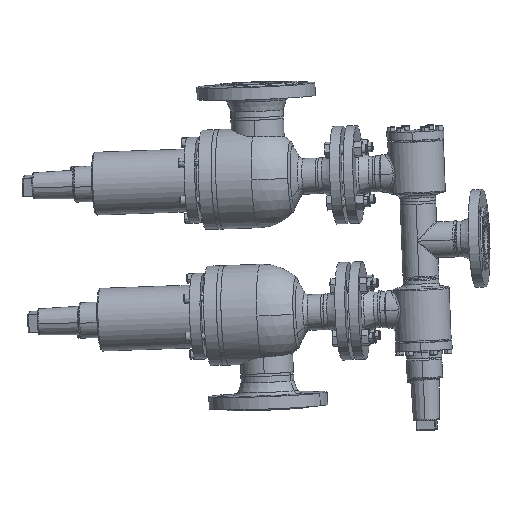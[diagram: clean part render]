
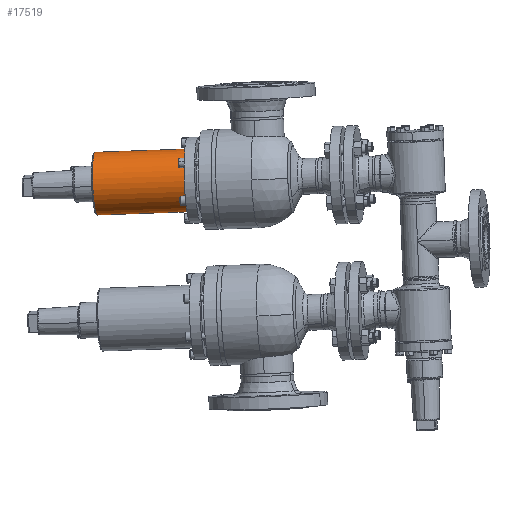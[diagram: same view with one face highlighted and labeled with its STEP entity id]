
A CAD part, top view. The second image highlights one B-rep face of the part: STEP entity #17519.
In plain terms, the highlighted cylindrical face has radius 53 mm (diameter 106 mm), a partial arc.
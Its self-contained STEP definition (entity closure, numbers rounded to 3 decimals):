
#16792 = EDGE_LOOP ( 'NONE', ( #15264, #13717, #12182, #10640 ) ) ;
#17519 = ADVANCED_FACE ( 'NONE', ( #14251 ), #14252, .T. ) ;
#33957 = EDGE_CURVE ( 'NONE', #35828, #38191, #37981, .T. ) ;
#1207 = EDGE_CURVE ( 'NONE', #36299, #3810, #43506, .T. ) ;
#18648 = EDGE_CURVE ( 'NONE', #35828, #36299, #15517, .T. ) ;
#35828 = VERTEX_POINT ( 'NONE', #41343 ) ;
#36299 = VERTEX_POINT ( 'NONE', #42281 ) ;
#3810 = VERTEX_POINT ( 'NONE', #47183 ) ;
#37981 = LINE ( 'NONE', #37982, #37983 ) ;
#37982 = CARTESIAN_POINT ( 'NONE',  ( 0., -43.922, 53. ) ) ;
#37983 = VECTOR ( 'NONE', #37984, 1000. ) ;
#37984 = DIRECTION ( 'NONE',  ( 0., -1., 0. ) ) ;
#38191 = VERTEX_POINT ( 'NONE', #45198 ) ;
#41343 = CARTESIAN_POINT ( 'NONE',  ( 0., 28.742, 53. ) ) ;
#9493 = CIRCLE ( 'NONE', #9494, 53. ) ;
#9494 = AXIS2_PLACEMENT_3D ( 'NONE', #9495, #9496, #9497 ) ;
#9495 = CARTESIAN_POINT ( 'NONE',  ( 0., -139.058, 0. ) ) ;
#9496 = DIRECTION ( 'NONE',  ( 0., -1., 0. ) ) ;
#9497 = DIRECTION ( 'NONE',  ( 0., 0., -1. ) ) ;
#42281 = CARTESIAN_POINT ( 'NONE',  ( 0., 28.742, -53. ) ) ;
#9534 = EDGE_CURVE ( 'NONE', #38191, #3810, #9493, .T. ) ;
#10640 = ORIENTED_EDGE ( 'NONE', *, *, #9534, .F. ) ;
#43506 = LINE ( 'NONE', #43507, #43508 ) ;
#43507 = CARTESIAN_POINT ( 'NONE',  ( 0., -43.922, -53. ) ) ;
#43508 = VECTOR ( 'NONE', #43509, 1000. ) ;
#43509 = DIRECTION ( 'NONE',  ( 0., -1., 0. ) ) ;
#12182 = ORIENTED_EDGE ( 'NONE', *, *, #1207, .T. ) ;
#45198 = CARTESIAN_POINT ( 'NONE',  ( 0., -139.058, 53. ) ) ;
#13717 = ORIENTED_EDGE ( 'NONE', *, *, #18648, .T. ) ;
#14251 = FACE_OUTER_BOUND ( 'NONE', #16792, .T. ) ;
#14252 = CYLINDRICAL_SURFACE ( 'NONE', #14253, 53. ) ;
#14253 = AXIS2_PLACEMENT_3D ( 'NONE', #14254, #14255, #14295 ) ;
#14254 = CARTESIAN_POINT ( 'NONE',  ( 0., -43.922, 0. ) ) ;
#14255 = DIRECTION ( 'NONE',  ( 0., -1., 0. ) ) ;
#14295 = DIRECTION ( 'NONE',  ( 0., 0., -1. ) ) ;
#47183 = CARTESIAN_POINT ( 'NONE',  ( 0., -139.058, -53. ) ) ;
#15264 = ORIENTED_EDGE ( 'NONE', *, *, #33957, .F. ) ;
#15517 = CIRCLE ( 'NONE', #15518, 53. ) ;
#15518 = AXIS2_PLACEMENT_3D ( 'NONE', #15519, #15558, #15559 ) ;
#15519 = CARTESIAN_POINT ( 'NONE',  ( 0., 28.742, 0. ) ) ;
#15558 = DIRECTION ( 'NONE',  ( 0., -1., 0. ) ) ;
#15559 = DIRECTION ( 'NONE',  ( 0., 0., -1. ) ) ;
